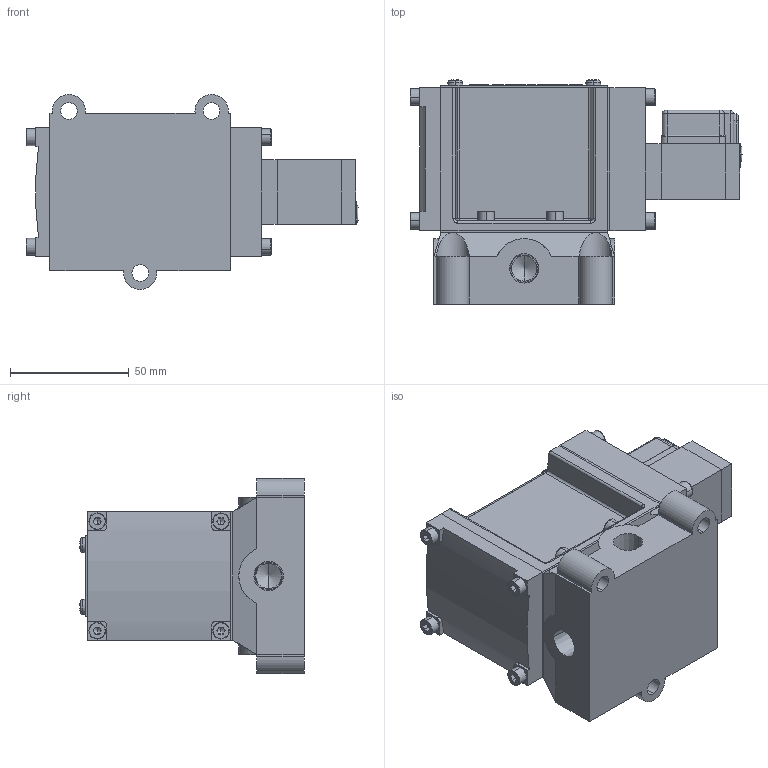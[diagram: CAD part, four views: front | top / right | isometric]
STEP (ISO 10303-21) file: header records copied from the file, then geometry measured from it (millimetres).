
FILE_DESCRIPTION (( 'STEP AP203' ), '1' );
FILE_NAME ('PMS2408#-02-#G#.STEP', '2016-03-09T08:32:51', ( 'Sam Lin' ), ( '' ), 'SwSTEP 2.0', 'SolidWorks 2013', '' );
FILE_SCHEMA (( 'CONFIG_CONTROL_DESIGN' ));
Length unit declared in the file: metre
Products named in the file (17): PMS2408-1; PMS2408-2; PMS2408-3; PMS2408-4; PMS2408-5; PMS2408-6; PM06-G1; PMS2408-7; PMS2408-8; PM08-MARK-2408; PM06-C1_1; PM06-C3-M4_1; PM06-C4_1; PM06-C6-M3_1; PM06-C5_1; ISO 4762 M4 x 10; PMS2408#-02-#G#
Assembly tree (29 placements, depth 2):
  PMS2408#-02-#G#
    PMS2408-1
    PMS2408-2
    PMS2408-3
    PMS2408-4
    PMS2408-5
    PMS2408-6
    PMS2408-7
    PMS2408-8
    PM06-C1_1
    PM06-C3-M4_1  x3
    PM06-C4_1
    PM06-C6-M3_1  x2
    PM06-C5_1
    PM06-G1
    PM08-MARK-2408
    ISO 4762 M4 x 10  x11
Bounding box: 139.5 x 94.35 x 82 mm (x, y, z)
Volume: 422993.1 mm3; surface area: 102764.8 mm2
Topology: 35 solids, 35 shells, 877 faces, 2079 edges, 1268 vertices
Faces by surface type: plane 456, cylinder 206, cone 109, bspline 102, torus 4
Entity records: 18463 total; most frequent: CARTESIAN_POINT 4523, DIRECTION 2478, ORIENTED_EDGE 2410, EDGE_CURVE 1205, AXIS2_PLACEMENT_3D 893, VERTEX_POINT 765, LINE 692, VECTOR 692
